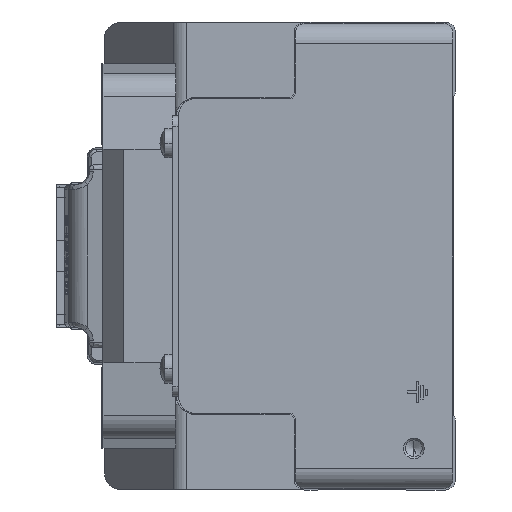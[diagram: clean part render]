
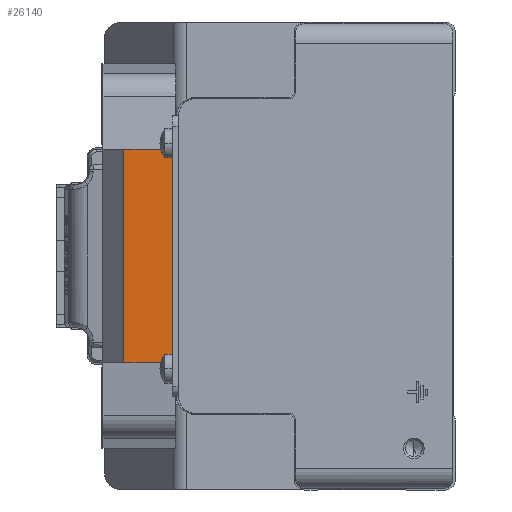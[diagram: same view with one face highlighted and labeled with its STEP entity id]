
A CAD part, left-side view. The second image highlights one B-rep face of the part: STEP entity #26140.
In plain terms, the highlighted planar face has unit normal (-1, 0, 0) as drawn and (0, 0, 1) by its records, which use the part's own axes.
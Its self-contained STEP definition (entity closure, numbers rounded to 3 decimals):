
#243 = CARTESIAN_POINT ( 'NONE',  ( -19.5, 0., 170. ) ) ;
#666 = VERTEX_POINT ( 'NONE', #12015 ) ;
#1319 = DIRECTION ( 'NONE',  ( -1., 0., 0. ) ) ;
#5629 = EDGE_CURVE ( 'NONE', #54476, #51387, #6877, .T. ) ;
#6403 = VECTOR ( 'NONE', #24209, 1000. ) ;
#6470 = CARTESIAN_POINT ( 'NONE',  ( -20.5, 14., 170. ) ) ;
#6877 = LINE ( 'NONE', #15688, #49769 ) ;
#7150 = EDGE_CURVE ( 'NONE', #51387, #33365, #11224, .T. ) ;
#7872 = CARTESIAN_POINT ( 'NONE',  ( 20.5, 14., 170. ) ) ;
#7880 = ORIENTED_EDGE ( 'NONE', *, *, #23898, .T. ) ;
#8043 = CARTESIAN_POINT ( 'NONE',  ( -20.5, 0., 170. ) ) ;
#8348 = ORIENTED_EDGE ( 'NONE', *, *, #15882, .T. ) ;
#11224 = LINE ( 'NONE', #15334, #45494 ) ;
#11887 = AXIS2_PLACEMENT_3D ( 'NONE', #55649, #20304, #55079 ) ;
#12015 = CARTESIAN_POINT ( 'NONE',  ( -20.5, 10., 170. ) ) ;
#13066 = LINE ( 'NONE', #52514, #33168 ) ;
#13441 = DIRECTION ( 'NONE',  ( 0.243, -0.97, 0. ) ) ;
#14858 = CARTESIAN_POINT ( 'NONE',  ( -20.5, 0., 170. ) ) ;
#15334 = CARTESIAN_POINT ( 'NONE',  ( -20., -2., 170. ) ) ;
#15556 = VECTOR ( 'NONE', #1319, 1000. ) ;
#15688 = CARTESIAN_POINT ( 'NONE',  ( -20.5, 0., 170. ) ) ;
#15882 = EDGE_CURVE ( 'NONE', #33365, #18056, #19537, .T. ) ;
#15945 = VECTOR ( 'NONE', #13441, 1000. ) ;
#16446 = VECTOR ( 'NONE', #37498, 1000. ) ;
#18056 = VERTEX_POINT ( 'NONE', #39380 ) ;
#19537 = LINE ( 'NONE', #14858, #6403 ) ;
#20007 = FACE_OUTER_BOUND ( 'NONE', #34439, .T. ) ;
#20169 = VERTEX_POINT ( 'NONE', #20526 ) ;
#20304 = DIRECTION ( 'NONE',  ( 0., 0., -1. ) ) ;
#20399 = CARTESIAN_POINT ( 'NONE',  ( -20., -2., 170. ) ) ;
#20526 = CARTESIAN_POINT ( 'NONE',  ( 20.5, 0., 170. ) ) ;
#20799 = VERTEX_POINT ( 'NONE', #30554 ) ;
#22050 = EDGE_CURVE ( 'NONE', #20799, #20169, #13066, .T. ) ;
#22620 = EDGE_CURVE ( 'NONE', #35461, #20169, #47934, .T. ) ;
#23569 = ORIENTED_EDGE ( 'NONE', *, *, #7150, .T. ) ;
#23898 = EDGE_CURVE ( 'NONE', #35461, #666, #50118, .T. ) ;
#24209 = DIRECTION ( 'NONE',  ( 1., 0., 0. ) ) ;
#26140 = ADVANCED_FACE ( 'NONE', ( #20007 ), #37850, .F. ) ;
#26308 = LINE ( 'NONE', #53762, #15945 ) ;
#27642 = CARTESIAN_POINT ( 'NONE',  ( 20.5, 10., 170. ) ) ;
#28359 = ORIENTED_EDGE ( 'NONE', *, *, #51227, .T. ) ;
#29063 = DIRECTION ( 'NONE',  ( 0.243, 0.97, 0. ) ) ;
#30554 = CARTESIAN_POINT ( 'NONE',  ( 20., -2., 170. ) ) ;
#33168 = VECTOR ( 'NONE', #44036, 1000. ) ;
#33264 = DIRECTION ( 'NONE',  ( 0.243, -0.97, 0. ) ) ;
#33365 = VERTEX_POINT ( 'NONE', #243 ) ;
#34439 = EDGE_LOOP ( 'NONE', ( #7880, #46613, #42179, #23569, #8348, #28359, #56656, #43361 ) ) ;
#35461 = VERTEX_POINT ( 'NONE', #51441 ) ;
#37498 = DIRECTION ( 'NONE',  ( 0., -1., 0. ) ) ;
#37850 = PLANE ( 'NONE',  #11887 ) ;
#39380 = CARTESIAN_POINT ( 'NONE',  ( 19.5, 0., 170. ) ) ;
#42179 = ORIENTED_EDGE ( 'NONE', *, *, #5629, .T. ) ;
#43260 = DIRECTION ( 'NONE',  ( 0., -1., 0. ) ) ;
#43361 = ORIENTED_EDGE ( 'NONE', *, *, #22620, .F. ) ;
#44036 = DIRECTION ( 'NONE',  ( 0.243, 0.97, 0. ) ) ;
#45494 = VECTOR ( 'NONE', #29063, 1000. ) ;
#46613 = ORIENTED_EDGE ( 'NONE', *, *, #57246, .T. ) ;
#47934 = LINE ( 'NONE', #7872, #50880 ) ;
#49769 = VECTOR ( 'NONE', #33264, 1000. ) ;
#50118 = LINE ( 'NONE', #27642, #15556 ) ;
#50880 = VECTOR ( 'NONE', #43260, 1000. ) ;
#51227 = EDGE_CURVE ( 'NONE', #18056, #20799, #26308, .T. ) ;
#51387 = VERTEX_POINT ( 'NONE', #20399 ) ;
#51441 = CARTESIAN_POINT ( 'NONE',  ( 20.5, 10., 170. ) ) ;
#52514 = CARTESIAN_POINT ( 'NONE',  ( 20., -2., 170. ) ) ;
#53762 = CARTESIAN_POINT ( 'NONE',  ( 19.5, 0., 170. ) ) ;
#54476 = VERTEX_POINT ( 'NONE', #8043 ) ;
#55079 = DIRECTION ( 'NONE',  ( -1., 0., 0. ) ) ;
#55610 = LINE ( 'NONE', #6470, #16446 ) ;
#55649 = CARTESIAN_POINT ( 'NONE',  ( -20.5, 14., 170. ) ) ;
#56656 = ORIENTED_EDGE ( 'NONE', *, *, #22050, .T. ) ;
#57246 = EDGE_CURVE ( 'NONE', #666, #54476, #55610, .T. ) ;
